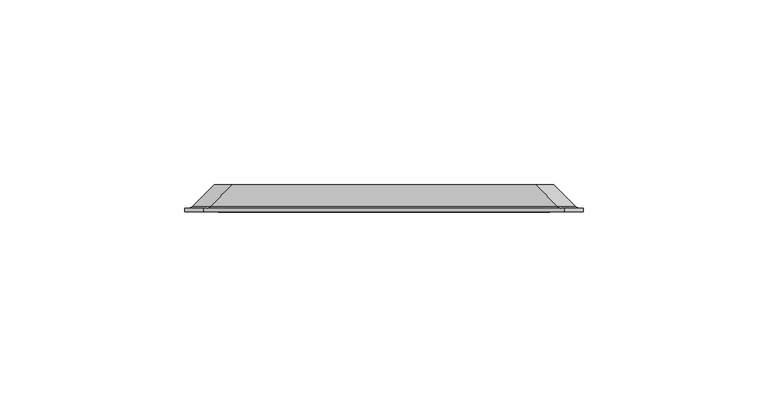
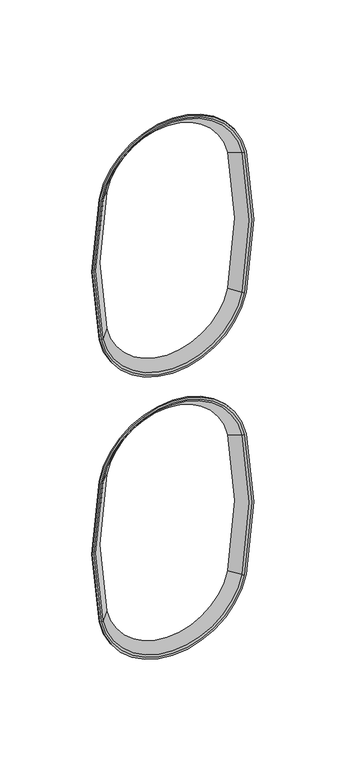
"""IFC4 building model written with IfcOpenShell, lengths in millimetres: proxy geometry, afs-LW-Stud-162 : afs-LW-Stud-162."""

from ifc_helpers import new_model, si_unit, point, frame, origin, place, context, project, spatial, polyline, circle_curve, ellipse_curve, trimmed, source, transform, mapped, element, save
from ifc_brep_helpers import plane_surface, cylinder_surface, revolved_surface, advanced_brep


def generic_models_2680ca9b(model_context):
    return source(origin(), model_context, "Body", "AdvancedBrep", [
        advanced_brep(
        [(-46.3549295, 1.862006, 399.3576594), (-46.3549295, 1.862006, 300.6423406), (-40.4865309, 7.8489239, 301.8277027), (-40.4865309, 7.8489239, 398.1722973), (-47.7224696, 1.2, 399.6338898), (-47.7224696, 1.2, 300.3661102), (-49.0101813, 2.1883516, 399.8939957), (-49.0101813, 2.1883516, 300.1060043), (-49.0101813, 1.2, 300.1060043), (-49.0101813, 1.2, 399.8939957), (-47.0304204, 2.5870863, 399.4941023), (-47.0304204, 2.5870863, 300.5058977), (-47.9739947, 2.1883516, 300.3153044), (-47.9739947, 2.1883516, 399.6846956), (-41.1796395, 8.5560306, 398.3122988), (-41.1796395, 8.5560306, 301.6877012), (46.3549295, 1.862006, 300.6423406), (46.3549295, 1.862006, 399.3576594), (40.4865309, 7.8489239, 398.1722973), (40.4865309, 7.8489239, 301.8277027), (47.7224696, 1.2, 300.3661102), (47.7224696, 1.2, 399.6338898), (49.0101813, 2.1883516, 300.1060043), (49.0101813, 2.1883516, 399.8939957), (49.0101813, 1.2, 399.8939957), (49.0101813, 1.2, 300.1060043), (47.0304204, 2.5870863, 300.5058977), (47.0304204, 2.5870863, 399.4941023), (47.9739947, 2.1883516, 399.6846956), (47.9739947, 2.1883516, 300.3153044), (41.1796395, 8.5560306, 301.6877012), (41.1796395, 8.5560306, 398.3122988)],
        [
            (0, 1, circle_curve(frame((198.0011326, 1.862006, 350.0), z_axis=(0.0, -1.0, 0.0), x_axis=(-0.9802036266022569, 0.0, -0.19799204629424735)), 249.2911222)),
            (1, 2),
            (2, 3, circle_curve(frame((198.0011326, 7.8489239, 350.0), z_axis=(0.0, 1.0, 0.0), x_axis=(-0.9802036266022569, 0.0, -0.19799204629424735)), 243.3042043)),
            (3, 0),
            (4, 5, circle_curve(frame((198.0011326, 1.2, 350.0), z_axis=(0.0, -1.0, 0.0), x_axis=(-0.9802036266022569, 0.0, -0.19799204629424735)), 250.6862814)),
            (5, 1, circle_curve(frame((-47.9490794, 3.4883516, 300.3203371), z_axis=(-0.19799204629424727, 0.0, 0.9802036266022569), x_axis=(0.9802036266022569, 0.0, 0.19799204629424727)), 2.3)),
            (0, 4, circle_curve(frame((-47.9490794, 3.4883516, 399.6796629), z_axis=(-0.19799204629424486, 0.0, -0.9802036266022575), x_axis=(0.9802036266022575, 0.0, -0.19799204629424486)), 2.3)),
            (6, 7, circle_curve(frame((198.0011326, 2.1883516, 350.0), z_axis=(0.0, -1.0, 0.0), x_axis=(-0.9802036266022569, 0.0, -0.19799204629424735)), 252.0)),
            (7, 8),
            (8, 9, circle_curve(frame((198.0011326, 1.2, 350.0), z_axis=(0.0, 1.0, 0.0), x_axis=(-0.9802036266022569, 0.0, -0.19799204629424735)), 252.0)),
            (9, 6),
            (10, 11, circle_curve(frame((198.0011326, 2.5870863, 350.0), z_axis=(0.0, -1.0, 0.0), x_axis=(-0.9802036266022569, 0.0, -0.19799204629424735)), 249.9802554)),
            (11, 12, circle_curve(frame((-47.9739947, 3.5497172, 300.3153044), z_axis=(0.19799204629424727, 0.0, -0.9802036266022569), x_axis=(0.9802036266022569, 0.0, 0.19799204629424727)), 1.3613657)),
            (12, 13, circle_curve(frame((198.0011326, 2.1883516, 350.0), z_axis=(0.0, 1.0, 0.0), x_axis=(-0.9802036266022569, 0.0, -0.19799204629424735)), 250.9428863)),
            (13, 10, circle_curve(frame((-47.9739947, 3.5497172, 399.6846956), z_axis=(0.1979920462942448, 0.0, 0.9802036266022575), x_axis=(0.9802036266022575, 0.0, -0.1979920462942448)), 1.3613657)),
            (14, 15, circle_curve(frame((198.0011326, 8.5560306, 350.0), z_axis=(0.0, -1.0, 0.0), x_axis=(-0.9802036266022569, 0.0, -0.19799204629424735)), 244.0113111)),
            (15, 11),
            (10, 14),
            (2, 15),
            (14, 3),
            (16, 17, circle_curve(frame((-198.0011326, 1.862006, 350.0), z_axis=(0.0, -1.0, 0.0), x_axis=(0.9802036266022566, 0.0, 0.19799204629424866)), 249.2911222)),
            (17, 18),
            (18, 19, circle_curve(frame((-198.0011326, 7.8489239, 350.0), z_axis=(0.0, 1.0, 0.0), x_axis=(0.9802036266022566, 0.0, 0.19799204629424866)), 243.3042043)),
            (19, 16),
            (20, 21, circle_curve(frame((-198.0011326, 1.2, 350.0), z_axis=(0.0, -1.0, 0.0), x_axis=(0.9802036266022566, 0.0, 0.19799204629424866)), 250.6862814)),
            (21, 17, circle_curve(frame((47.9490794, 3.4883516, 399.6796629), z_axis=(0.19799204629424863, 0.0, -0.9802036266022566), x_axis=(-0.9802036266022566, 0.0, -0.19799204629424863)), 2.3)),
            (16, 20, circle_curve(frame((47.9490794, 3.4883516, 300.3203371), z_axis=(0.1979920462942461, 0.0, 0.980203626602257), x_axis=(-0.980203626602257, 0.0, 0.1979920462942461)), 2.3)),
            (22, 23, circle_curve(frame((-198.0011326, 2.1883516, 350.0), z_axis=(0.0, -1.0, 0.0), x_axis=(0.9802036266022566, 0.0, 0.19799204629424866)), 252.0)),
            (23, 24),
            (24, 25, circle_curve(frame((-198.0011326, 1.2, 350.0), z_axis=(0.0, 1.0, 0.0), x_axis=(0.9802036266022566, 0.0, 0.19799204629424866)), 252.0)),
            (25, 22),
            (26, 27, circle_curve(frame((-198.0011326, 2.5870863, 350.0), z_axis=(0.0, -1.0, 0.0), x_axis=(0.9802036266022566, 0.0, 0.19799204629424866)), 249.9802554)),
            (27, 28, circle_curve(frame((47.9739947, 3.5497172, 399.6846956), z_axis=(-0.19799204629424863, 0.0, 0.9802036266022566), x_axis=(-0.9802036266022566, 0.0, -0.19799204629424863)), 1.3613657)),
            (28, 29, circle_curve(frame((-198.0011326, 2.1883516, 350.0), z_axis=(0.0, 1.0, 0.0), x_axis=(0.9802036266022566, 0.0, 0.19799204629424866)), 250.9428863)),
            (29, 26, circle_curve(frame((47.9739947, 3.5497172, 300.3153044), z_axis=(-0.19799204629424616, 0.0, -0.980203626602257), x_axis=(-0.980203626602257, 0.0, 0.19799204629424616)), 1.3613657)),
            (30, 31, circle_curve(frame((-198.0011326, 8.5560306, 350.0), z_axis=(0.0, -1.0, 0.0), x_axis=(0.9802036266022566, 0.0, 0.19799204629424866)), 244.0113111)),
            (31, 27),
            (26, 30),
            (18, 31),
            (30, 19),
            (1, 16, circle_curve(frame((0.0, 1.862006, 310.0056066), z_axis=(0.0, -1.0, 0.0), x_axis=(0.980203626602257, 0.0, -0.19799204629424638)), 47.2911222)),
            (19, 2, circle_curve(frame((0.0, 7.8489239, 310.0056066), z_axis=(0.0, 1.0, 0.0), x_axis=(0.980203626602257, 0.0, -0.19799204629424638)), 41.3042043)),
            (5, 20, circle_curve(frame((0.0, 1.2, 310.0056066), z_axis=(0.0, -1.0, 0.0), x_axis=(0.980203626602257, 0.0, -0.19799204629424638)), 48.6862814)),
            (7, 22, circle_curve(frame((0.0, 2.1883516, 310.0056066), z_axis=(0.0, -1.0, 0.0), x_axis=(0.980203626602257, 0.0, -0.19799204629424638)), 50.0)),
            (25, 8, circle_curve(frame((0.0, 1.2, 310.0056066), z_axis=(0.0, 1.0, 0.0), x_axis=(0.980203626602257, 0.0, -0.19799204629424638)), 50.0)),
            (11, 26, circle_curve(frame((0.0, 2.5870863, 310.0056066), z_axis=(0.0, -1.0, 0.0), x_axis=(0.980203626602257, 0.0, -0.19799204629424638)), 47.9802554)),
            (29, 12, circle_curve(frame((0.0, 2.1883516, 310.0056066), z_axis=(0.0, 1.0, 0.0), x_axis=(0.980203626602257, 0.0, -0.19799204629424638)), 48.9428863)),
            (15, 30, circle_curve(frame((0.0, 8.5560306, 310.0056066), z_axis=(0.0, -1.0, 0.0), x_axis=(0.980203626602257, 0.0, -0.19799204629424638)), 42.0113111)),
            (17, 0, circle_curve(frame((0.0, 1.862006, 389.9943934), z_axis=(0.0, -1.0, 0.0), x_axis=(-0.9802036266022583, 0.0, 0.19799204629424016)), 47.2911222)),
            (3, 18, circle_curve(frame((0.0, 7.8489239, 389.9943934), z_axis=(0.0, 1.0, 0.0), x_axis=(-0.9802036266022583, 0.0, 0.19799204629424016)), 41.3042043)),
            (21, 4, circle_curve(frame((0.0, 1.2, 389.9943934), z_axis=(0.0, -1.0, 0.0), x_axis=(-0.9802036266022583, 0.0, 0.19799204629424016)), 48.6862814)),
            (24, 9, circle_curve(frame((0.0, 1.2, 389.9943934), z_axis=(0.0, -1.0, 0.0), x_axis=(-0.9802036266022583, 0.0, 0.19799204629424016)), 50.0)),
            (23, 6, circle_curve(frame((0.0, 2.1883516, 389.9943934), z_axis=(0.0, -1.0, 0.0), x_axis=(-0.9802036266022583, 0.0, 0.19799204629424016)), 50.0)),
            (28, 13, circle_curve(frame((0.0, 2.1883516, 389.9943934), z_axis=(0.0, -1.0, 0.0), x_axis=(-0.9802036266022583, 0.0, 0.19799204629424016)), 48.9428863)),
            (27, 10, circle_curve(frame((0.0, 2.5870863, 389.9943934), z_axis=(0.0, -1.0, 0.0), x_axis=(-0.9802036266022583, 0.0, 0.19799204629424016)), 47.9802554)),
            (31, 14, circle_curve(frame((0.0, 8.5560306, 389.9943934), z_axis=(0.0, -1.0, 0.0), x_axis=(-0.9802036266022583, 0.0, 0.19799204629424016)), 42.0113111)),
        ],
        [
            revolved_surface(polyline([(-40.4865309, 7.8489239, 301.8277027), (-46.3549295, 1.862006, 300.6423406)]), (198.0011326, 1.2, 350.0), (0.0, 1.0, 0.0)),
            revolved_surface(trimmed(ellipse_curve(frame((-47.9490794, 3.4883516, 300.3203371), z_axis=(0.19799204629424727, 0.0, -0.9802036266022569), x_axis=(0.9802036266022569, 0.0, 0.19799204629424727)), 2.3, 2.3), [point((-46.3549295, 1.862006, 300.6423406))], [point((-47.7224696, 1.2, 300.3661102))], True, "CARTESIAN"), (198.0011326, 1.2, 350.0), (0.0, 1.0, 0.0)),
            cylinder_surface(frame((198.0011326, 1.2, 350.0), z_axis=(0.0, 1.0, 0.0), x_axis=(-0.9802036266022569, 0.0, -0.19799204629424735)), 252.0),
            revolved_surface(trimmed(ellipse_curve(frame((-47.9739947, 3.5497172, 300.3153044), z_axis=(-0.19799204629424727, 0.0, 0.9802036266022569), x_axis=(0.9802036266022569, 0.0, 0.19799204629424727)), 1.3613657, 1.3613657), [point((-47.9739947, 2.1883516, 300.3153044))], [point((-47.0304204, 2.5870863, 300.5058977))], True, "CARTESIAN"), (198.0011326, 1.2, 350.0), (0.0, 1.0, 0.0)),
            revolved_surface(polyline([(-47.0304204, 2.5870863, 300.5058977), (-41.1796395, 8.5560306, 301.6877012)]), (198.0011326, 1.2, 350.0), (0.0, 1.0, 0.0)),
            revolved_surface(polyline([(-41.1796395, 8.5560306, 301.6877012), (-40.4865309, 7.8489239, 301.8277027)]), (198.0011326, 1.2, 350.0), (0.0, 1.0, 0.0)),
            revolved_surface(polyline([(40.4865309, 7.8489239, 398.1722973), (46.3549295, 1.862006, 399.3576594)]), (-198.0011326, 1.2, 350.0), (0.0, 1.0, 0.0)),
            revolved_surface(trimmed(ellipse_curve(frame((47.9490794, 3.4883516, 399.6796629), z_axis=(-0.19799204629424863, 0.0, 0.9802036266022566), x_axis=(-0.9802036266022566, 0.0, -0.19799204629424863)), 2.3, 2.3), [point((46.3549295, 1.862006, 399.3576594))], [point((47.7224696, 1.2, 399.6338898))], True, "CARTESIAN"), (-198.0011326, 1.2, 350.0), (0.0, 1.0, 0.0)),
            cylinder_surface(frame((-198.0011326, 1.2, 350.0), z_axis=(0.0, 1.0, 0.0), x_axis=(0.9802036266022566, 0.0, 0.19799204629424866)), 252.0),
            revolved_surface(trimmed(ellipse_curve(frame((47.9739947, 3.5497172, 399.6846956), z_axis=(0.19799204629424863, 0.0, -0.9802036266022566), x_axis=(-0.9802036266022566, 0.0, -0.19799204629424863)), 1.3613657, 1.3613657), [point((47.9739947, 2.1883516, 399.6846956))], [point((47.0304204, 2.5870863, 399.4941023))], True, "CARTESIAN"), (-198.0011326, 1.2, 350.0), (0.0, 1.0, 0.0)),
            revolved_surface(polyline([(47.0304204, 2.5870863, 399.4941023), (41.1796395, 8.5560306, 398.3122988)]), (-198.0011326, 1.2, 350.0), (0.0, 1.0, 0.0)),
            revolved_surface(polyline([(41.1796395, 8.5560306, 398.3122988), (40.4865309, 7.8489239, 398.1722973)]), (-198.0011326, 1.2, 350.0), (0.0, 1.0, 0.0)),
            revolved_surface(polyline([(40.4865309, 7.8489239, 301.8277027), (46.3549295, 1.862006, 300.6423406)]), (0.0, 1.2, 310.0056066), (0.0, 1.0, 0.0)),
            revolved_surface(trimmed(ellipse_curve(frame((47.9490794, 3.4883516, 300.3203371), z_axis=(0.19799204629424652, 0.0, 0.980203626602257), x_axis=(-0.980203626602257, 0.0, 0.19799204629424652)), 2.3, 2.3), [point((46.3549295, 1.862006, 300.6423406))], [point((47.7224696, 1.2, 300.3661102))], True, "CARTESIAN"), (0.0, 1.2, 310.0056066), (0.0, 1.0, 0.0)),
            cylinder_surface(frame((0.0, 1.2, 310.0056066), z_axis=(0.0, 1.0, 0.0), x_axis=(0.980203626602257, 0.0, -0.19799204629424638)), 50.0),
            revolved_surface(trimmed(ellipse_curve(frame((47.9739947, 3.5497172, 300.3153044), z_axis=(-0.19799204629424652, 0.0, -0.980203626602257), x_axis=(-0.980203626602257, 0.0, 0.19799204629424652)), 1.3613657, 1.3613657), [point((47.9739947, 2.1883516, 300.3153044))], [point((47.0304204, 2.5870863, 300.5058977))], True, "CARTESIAN"), (0.0, 1.2, 310.0056066), (0.0, 1.0, 0.0)),
            revolved_surface(polyline([(47.0304204, 2.5870863, 300.5058977), (41.1796395, 8.5560306, 301.6877012)]), (0.0, 1.2, 310.0056066), (0.0, 1.0, 0.0)),
            revolved_surface(polyline([(41.1796395, 8.5560306, 301.6877012), (40.4865309, 7.8489239, 301.8277027)]), (0.0, 1.2, 310.0056066), (0.0, 1.0, 0.0)),
            revolved_surface(polyline([(-40.4865309, 7.8489239, 398.1722973), (-46.3549295, 1.862006, 399.3576594)]), (0.0, 1.2, 389.9943934), (0.0, 1.0, 0.0)),
            revolved_surface(trimmed(ellipse_curve(frame((-47.9490794, 3.4883516, 399.6796629), z_axis=(-0.19799204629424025, 0.0, -0.9802036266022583), x_axis=(0.9802036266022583, 0.0, -0.19799204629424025)), 2.3, 2.3), [point((-46.3549295, 1.862006, 399.3576594))], [point((-47.7224696, 1.2, 399.6338898))], True, "CARTESIAN"), (0.0, 1.2, 389.9943934), (0.0, 1.0, 0.0)),
            plane_surface(frame((0.0, 1.2, 389.9943934), z_axis=(0.0, -1.0, 0.0), x_axis=(-0.9802036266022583, 0.0, 0.19799204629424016))),
            cylinder_surface(frame((0.0, 1.2, 389.9943934), z_axis=(0.0, 1.0, 0.0), x_axis=(-0.9802036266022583, 0.0, 0.19799204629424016)), 50.0),
            plane_surface(frame((0.0, 2.1883516, 389.9943934), z_axis=(0.0, 1.0, 0.0), x_axis=(-0.9802036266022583, 0.0, 0.19799204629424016))),
            revolved_surface(trimmed(ellipse_curve(frame((-47.9739947, 3.5497172, 399.6846956), z_axis=(0.19799204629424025, 0.0, 0.9802036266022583), x_axis=(0.9802036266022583, 0.0, -0.19799204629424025)), 1.3613657, 1.3613657), [point((-47.9739947, 2.1883516, 399.6846956))], [point((-47.0304204, 2.5870863, 399.4941023))], True, "CARTESIAN"), (0.0, 1.2, 389.9943934), (0.0, 1.0, 0.0)),
            revolved_surface(polyline([(-47.0304204, 2.5870863, 399.4941023), (-41.1796395, 8.5560306, 398.3122988)]), (0.0, 1.2, 389.9943934), (0.0, 1.0, 0.0)),
            revolved_surface(polyline([(-41.1796395, 8.5560306, 398.3122988), (-40.4865309, 7.8489239, 398.1722973)]), (0.0, 1.2, 389.9943934), (0.0, 1.0, 0.0)),
        ],
        [
            (0, [[1, 2, 3, 4]]),
            (1, [[5, 6, -1, 7]]),
            (2, [[8, 9, 10, 11]]),
            (3, [[12, 13, 14, 15]]),
            (4, [[16, 17, -12, 18]]),
            (5, [[-3, 19, -16, 20]]),
            (6, [[21, 22, 23, 24]]),
            (7, [[25, 26, -21, 27]]),
            (8, [[28, 29, 30, 31]]),
            (9, [[32, 33, 34, 35]]),
            (10, [[36, 37, -32, 38]]),
            (11, [[-23, 39, -36, 40]]),
            (12, [[41, -24, 42, -2]]),
            (13, [[43, -27, -41, -6]]),
            (14, [[44, -31, 45, -9]]),
            (15, [[46, -35, 47, -13]]),
            (16, [[48, -38, -46, -17]]),
            (17, [[-42, -40, -48, -19]]),
            (18, [[49, -4, 50, -22]]),
            (19, [[51, -7, -49, -26]]),
            (20, [[52, -10, -45, -30], [-25, -43, -5, -51]]),
            (21, [[53, -11, -52, -29]]),
            (22, [[-28, -44, -8, -53], [54, -14, -47, -34]]),
            (23, [[55, -15, -54, -33]]),
            (24, [[56, -18, -55, -37]]),
            (25, [[-50, -20, -56, -39]]),
        ],
    ),
        advanced_brep(
        [(-46.3549295, 1.862006, 199.3576594), (-46.3549295, 1.862006, 100.6423406), (-40.4865309, 7.8489239, 101.8277027), (-40.4865309, 7.8489239, 198.1722973), (-47.7224696, 1.2, 199.6338898), (-47.7224696, 1.2, 100.3661102), (-49.0101813, 2.1883516, 199.8939957), (-49.0101813, 2.1883516, 100.1060043), (-49.0101813, 1.2, 100.1060043), (-49.0101813, 1.2, 199.8939957), (-47.0304204, 2.5870863, 199.4941023), (-47.0304204, 2.5870863, 100.5058977), (-47.9739947, 2.1883516, 100.3153044), (-47.9739947, 2.1883516, 199.6846956), (-41.1796395, 8.5560306, 198.3122988), (-41.1796395, 8.5560306, 101.6877012), (46.3549295, 1.862006, 100.6423406), (46.3549295, 1.862006, 199.3576594), (40.4865309, 7.8489239, 198.1722973), (40.4865309, 7.8489239, 101.8277027), (47.7224696, 1.2, 100.3661102), (47.7224696, 1.2, 199.6338898), (49.0101813, 2.1883516, 100.1060043), (49.0101813, 2.1883516, 199.8939957), (49.0101813, 1.2, 199.8939957), (49.0101813, 1.2, 100.1060043), (47.0304204, 2.5870863, 100.5058977), (47.0304204, 2.5870863, 199.4941023), (47.9739947, 2.1883516, 199.6846956), (47.9739947, 2.1883516, 100.3153044), (41.1796395, 8.5560306, 101.6877012), (41.1796395, 8.5560306, 198.3122988)],
        [
            (0, 1, circle_curve(frame((198.0011326, 1.862006, 150.0), z_axis=(0.0, -1.0, 0.0), x_axis=(-0.9802036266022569, 0.0, -0.19799204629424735)), 249.2911222)),
            (1, 2),
            (2, 3, circle_curve(frame((198.0011326, 7.8489239, 150.0), z_axis=(0.0, 1.0, 0.0), x_axis=(-0.9802036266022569, 0.0, -0.19799204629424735)), 243.3042043)),
            (3, 0),
            (4, 5, circle_curve(frame((198.0011326, 1.2, 150.0), z_axis=(0.0, -1.0, 0.0), x_axis=(-0.9802036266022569, 0.0, -0.19799204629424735)), 250.6862814)),
            (5, 1, circle_curve(frame((-47.9490794, 3.4883516, 100.3203371), z_axis=(-0.19799204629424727, 0.0, 0.9802036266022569), x_axis=(0.9802036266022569, 0.0, 0.19799204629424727)), 2.3)),
            (0, 4, circle_curve(frame((-47.9490794, 3.4883516, 199.6796629), z_axis=(-0.19799204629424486, 0.0, -0.9802036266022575), x_axis=(0.9802036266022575, 0.0, -0.19799204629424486)), 2.3)),
            (6, 7, circle_curve(frame((198.0011326, 2.1883516, 150.0), z_axis=(0.0, -1.0, 0.0), x_axis=(-0.9802036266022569, 0.0, -0.19799204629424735)), 252.0)),
            (7, 8),
            (8, 9, circle_curve(frame((198.0011326, 1.2, 150.0), z_axis=(0.0, 1.0, 0.0), x_axis=(-0.9802036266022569, 0.0, -0.19799204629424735)), 252.0)),
            (9, 6),
            (10, 11, circle_curve(frame((198.0011326, 2.5870863, 150.0), z_axis=(0.0, -1.0, 0.0), x_axis=(-0.9802036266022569, 0.0, -0.19799204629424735)), 249.9802554)),
            (11, 12, circle_curve(frame((-47.9739947, 3.5497172, 100.3153044), z_axis=(0.19799204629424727, 0.0, -0.9802036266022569), x_axis=(0.9802036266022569, 0.0, 0.19799204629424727)), 1.3613657)),
            (12, 13, circle_curve(frame((198.0011326, 2.1883516, 150.0), z_axis=(0.0, 1.0, 0.0), x_axis=(-0.9802036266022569, 0.0, -0.19799204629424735)), 250.9428863)),
            (13, 10, circle_curve(frame((-47.9739947, 3.5497172, 199.6846956), z_axis=(0.1979920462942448, 0.0, 0.9802036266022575), x_axis=(0.9802036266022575, 0.0, -0.1979920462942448)), 1.3613657)),
            (14, 15, circle_curve(frame((198.0011326, 8.5560306, 150.0), z_axis=(0.0, -1.0, 0.0), x_axis=(-0.9802036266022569, 0.0, -0.19799204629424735)), 244.0113111)),
            (15, 11),
            (10, 14),
            (2, 15),
            (14, 3),
            (16, 17, circle_curve(frame((-198.0011326, 1.862006, 150.0), z_axis=(0.0, -1.0, 0.0), x_axis=(0.9802036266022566, 0.0, 0.19799204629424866)), 249.2911222)),
            (17, 18),
            (18, 19, circle_curve(frame((-198.0011326, 7.8489239, 150.0), z_axis=(0.0, 1.0, 0.0), x_axis=(0.9802036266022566, 0.0, 0.19799204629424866)), 243.3042043)),
            (19, 16),
            (20, 21, circle_curve(frame((-198.0011326, 1.2, 150.0), z_axis=(0.0, -1.0, 0.0), x_axis=(0.9802036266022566, 0.0, 0.19799204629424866)), 250.6862814)),
            (21, 17, circle_curve(frame((47.9490794, 3.4883516, 199.6796629), z_axis=(0.19799204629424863, 0.0, -0.9802036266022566), x_axis=(-0.9802036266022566, 0.0, -0.19799204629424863)), 2.3)),
            (16, 20, circle_curve(frame((47.9490794, 3.4883516, 100.3203371), z_axis=(0.1979920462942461, 0.0, 0.980203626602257), x_axis=(-0.980203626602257, 0.0, 0.1979920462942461)), 2.3)),
            (22, 23, circle_curve(frame((-198.0011326, 2.1883516, 150.0), z_axis=(0.0, -1.0, 0.0), x_axis=(0.9802036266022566, 0.0, 0.19799204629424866)), 252.0)),
            (23, 24),
            (24, 25, circle_curve(frame((-198.0011326, 1.2, 150.0), z_axis=(0.0, 1.0, 0.0), x_axis=(0.9802036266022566, 0.0, 0.19799204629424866)), 252.0)),
            (25, 22),
            (26, 27, circle_curve(frame((-198.0011326, 2.5870863, 150.0), z_axis=(0.0, -1.0, 0.0), x_axis=(0.9802036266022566, 0.0, 0.19799204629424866)), 249.9802554)),
            (27, 28, circle_curve(frame((47.9739947, 3.5497172, 199.6846956), z_axis=(-0.19799204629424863, 0.0, 0.9802036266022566), x_axis=(-0.9802036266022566, 0.0, -0.19799204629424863)), 1.3613657)),
            (28, 29, circle_curve(frame((-198.0011326, 2.1883516, 150.0), z_axis=(0.0, 1.0, 0.0), x_axis=(0.9802036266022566, 0.0, 0.19799204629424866)), 250.9428863)),
            (29, 26, circle_curve(frame((47.9739947, 3.5497172, 100.3153044), z_axis=(-0.19799204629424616, 0.0, -0.980203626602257), x_axis=(-0.980203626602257, 0.0, 0.19799204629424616)), 1.3613657)),
            (30, 31, circle_curve(frame((-198.0011326, 8.5560306, 150.0), z_axis=(0.0, -1.0, 0.0), x_axis=(0.9802036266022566, 0.0, 0.19799204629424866)), 244.0113111)),
            (31, 27),
            (26, 30),
            (18, 31),
            (30, 19),
            (1, 16, circle_curve(frame((0.0, 1.862006, 110.0056066), z_axis=(0.0, -1.0, 0.0), x_axis=(0.980203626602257, 0.0, -0.19799204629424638)), 47.2911222)),
            (19, 2, circle_curve(frame((0.0, 7.8489239, 110.0056066), z_axis=(0.0, 1.0, 0.0), x_axis=(0.980203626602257, 0.0, -0.19799204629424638)), 41.3042043)),
            (5, 20, circle_curve(frame((0.0, 1.2, 110.0056066), z_axis=(0.0, -1.0, 0.0), x_axis=(0.980203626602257, 0.0, -0.19799204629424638)), 48.6862814)),
            (7, 22, circle_curve(frame((0.0, 2.1883516, 110.0056066), z_axis=(0.0, -1.0, 0.0), x_axis=(0.980203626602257, 0.0, -0.19799204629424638)), 50.0)),
            (25, 8, circle_curve(frame((0.0, 1.2, 110.0056066), z_axis=(0.0, 1.0, 0.0), x_axis=(0.980203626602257, 0.0, -0.19799204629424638)), 50.0)),
            (11, 26, circle_curve(frame((0.0, 2.5870863, 110.0056066), z_axis=(0.0, -1.0, 0.0), x_axis=(0.980203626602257, 0.0, -0.19799204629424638)), 47.9802554)),
            (29, 12, circle_curve(frame((0.0, 2.1883516, 110.0056066), z_axis=(0.0, 1.0, 0.0), x_axis=(0.980203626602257, 0.0, -0.19799204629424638)), 48.9428863)),
            (15, 30, circle_curve(frame((0.0, 8.5560306, 110.0056066), z_axis=(0.0, -1.0, 0.0), x_axis=(0.980203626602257, 0.0, -0.19799204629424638)), 42.0113111)),
            (17, 0, circle_curve(frame((0.0, 1.862006, 189.9943934), z_axis=(0.0, -1.0, 0.0), x_axis=(-0.9802036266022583, 0.0, 0.19799204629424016)), 47.2911222)),
            (3, 18, circle_curve(frame((0.0, 7.8489239, 189.9943934), z_axis=(0.0, 1.0, 0.0), x_axis=(-0.9802036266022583, 0.0, 0.19799204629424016)), 41.3042043)),
            (21, 4, circle_curve(frame((0.0, 1.2, 189.9943934), z_axis=(0.0, -1.0, 0.0), x_axis=(-0.9802036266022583, 0.0, 0.19799204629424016)), 48.6862814)),
            (24, 9, circle_curve(frame((0.0, 1.2, 189.9943934), z_axis=(0.0, -1.0, 0.0), x_axis=(-0.9802036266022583, 0.0, 0.19799204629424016)), 50.0)),
            (23, 6, circle_curve(frame((0.0, 2.1883516, 189.9943934), z_axis=(0.0, -1.0, 0.0), x_axis=(-0.9802036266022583, 0.0, 0.19799204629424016)), 50.0)),
            (28, 13, circle_curve(frame((0.0, 2.1883516, 189.9943934), z_axis=(0.0, -1.0, 0.0), x_axis=(-0.9802036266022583, 0.0, 0.19799204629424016)), 48.9428863)),
            (27, 10, circle_curve(frame((0.0, 2.5870863, 189.9943934), z_axis=(0.0, -1.0, 0.0), x_axis=(-0.9802036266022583, 0.0, 0.19799204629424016)), 47.9802554)),
            (31, 14, circle_curve(frame((0.0, 8.5560306, 189.9943934), z_axis=(0.0, -1.0, 0.0), x_axis=(-0.9802036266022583, 0.0, 0.19799204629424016)), 42.0113111)),
        ],
        [
            revolved_surface(polyline([(-40.4865309, 7.8489239, 101.8277027), (-46.3549295, 1.862006, 100.6423406)]), (198.0011326, 1.2, 150.0), (0.0, 1.0, 0.0)),
            revolved_surface(trimmed(ellipse_curve(frame((-47.9490794, 3.4883516, 100.3203371), z_axis=(0.19799204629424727, 0.0, -0.9802036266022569), x_axis=(0.9802036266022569, 0.0, 0.19799204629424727)), 2.3, 2.3), [point((-46.3549295, 1.862006, 100.6423406))], [point((-47.7224696, 1.2, 100.3661102))], True, "CARTESIAN"), (198.0011326, 1.2, 150.0), (0.0, 1.0, 0.0)),
            cylinder_surface(frame((198.0011326, 1.2, 150.0), z_axis=(0.0, 1.0, 0.0), x_axis=(-0.9802036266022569, 0.0, -0.19799204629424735)), 252.0),
            revolved_surface(trimmed(ellipse_curve(frame((-47.9739947, 3.5497172, 100.3153044), z_axis=(-0.19799204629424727, 0.0, 0.9802036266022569), x_axis=(0.9802036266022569, 0.0, 0.19799204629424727)), 1.3613657, 1.3613657), [point((-47.9739947, 2.1883516, 100.3153044))], [point((-47.0304204, 2.5870863, 100.5058977))], True, "CARTESIAN"), (198.0011326, 1.2, 150.0), (0.0, 1.0, 0.0)),
            revolved_surface(polyline([(-47.0304204, 2.5870863, 100.5058977), (-41.1796395, 8.5560306, 101.6877012)]), (198.0011326, 1.2, 150.0), (0.0, 1.0, 0.0)),
            revolved_surface(polyline([(-41.1796395, 8.5560306, 101.6877012), (-40.4865309, 7.8489239, 101.8277027)]), (198.0011326, 1.2, 150.0), (0.0, 1.0, 0.0)),
            revolved_surface(polyline([(40.4865309, 7.8489239, 198.1722973), (46.3549295, 1.862006, 199.3576594)]), (-198.0011326, 1.2, 150.0), (0.0, 1.0, 0.0)),
            revolved_surface(trimmed(ellipse_curve(frame((47.9490794, 3.4883516, 199.6796629), z_axis=(-0.19799204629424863, 0.0, 0.9802036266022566), x_axis=(-0.9802036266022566, 0.0, -0.19799204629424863)), 2.3, 2.3), [point((46.3549295, 1.862006, 199.3576594))], [point((47.7224696, 1.2, 199.6338898))], True, "CARTESIAN"), (-198.0011326, 1.2, 150.0), (0.0, 1.0, 0.0)),
            cylinder_surface(frame((-198.0011326, 1.2, 150.0), z_axis=(0.0, 1.0, 0.0), x_axis=(0.9802036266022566, 0.0, 0.19799204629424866)), 252.0),
            revolved_surface(trimmed(ellipse_curve(frame((47.9739947, 3.5497172, 199.6846956), z_axis=(0.19799204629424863, 0.0, -0.9802036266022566), x_axis=(-0.9802036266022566, 0.0, -0.19799204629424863)), 1.3613657, 1.3613657), [point((47.9739947, 2.1883516, 199.6846956))], [point((47.0304204, 2.5870863, 199.4941023))], True, "CARTESIAN"), (-198.0011326, 1.2, 150.0), (0.0, 1.0, 0.0)),
            revolved_surface(polyline([(47.0304204, 2.5870863, 199.4941023), (41.1796395, 8.5560306, 198.3122988)]), (-198.0011326, 1.2, 150.0), (0.0, 1.0, 0.0)),
            revolved_surface(polyline([(41.1796395, 8.5560306, 198.3122988), (40.4865309, 7.8489239, 198.1722973)]), (-198.0011326, 1.2, 150.0), (0.0, 1.0, 0.0)),
            revolved_surface(polyline([(40.4865309, 7.8489239, 101.8277027), (46.3549295, 1.862006, 100.6423406)]), (0.0, 1.2, 110.0056066), (0.0, 1.0, 0.0)),
            revolved_surface(trimmed(ellipse_curve(frame((47.9490794, 3.4883516, 100.3203371), z_axis=(0.19799204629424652, 0.0, 0.980203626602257), x_axis=(-0.980203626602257, 0.0, 0.19799204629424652)), 2.3, 2.3), [point((46.3549295, 1.862006, 100.6423406))], [point((47.7224696, 1.2, 100.3661102))], True, "CARTESIAN"), (0.0, 1.2, 110.0056066), (0.0, 1.0, 0.0)),
            cylinder_surface(frame((0.0, 1.2, 110.0056066), z_axis=(0.0, 1.0, 0.0), x_axis=(0.980203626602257, 0.0, -0.19799204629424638)), 50.0),
            revolved_surface(trimmed(ellipse_curve(frame((47.9739947, 3.5497172, 100.3153044), z_axis=(-0.19799204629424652, 0.0, -0.980203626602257), x_axis=(-0.980203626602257, 0.0, 0.19799204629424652)), 1.3613657, 1.3613657), [point((47.9739947, 2.1883516, 100.3153044))], [point((47.0304204, 2.5870863, 100.5058977))], True, "CARTESIAN"), (0.0, 1.2, 110.0056066), (0.0, 1.0, 0.0)),
            revolved_surface(polyline([(47.0304204, 2.5870863, 100.5058977), (41.1796395, 8.5560306, 101.6877012)]), (0.0, 1.2, 110.0056066), (0.0, 1.0, 0.0)),
            revolved_surface(polyline([(41.1796395, 8.5560306, 101.6877012), (40.4865309, 7.8489239, 101.8277027)]), (0.0, 1.2, 110.0056066), (0.0, 1.0, 0.0)),
            revolved_surface(polyline([(-40.4865309, 7.8489239, 198.1722973), (-46.3549295, 1.862006, 199.3576594)]), (0.0, 1.2, 189.9943934), (0.0, 1.0, 0.0)),
            revolved_surface(trimmed(ellipse_curve(frame((-47.9490794, 3.4883516, 199.6796629), z_axis=(-0.19799204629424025, 0.0, -0.9802036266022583), x_axis=(0.9802036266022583, 0.0, -0.19799204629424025)), 2.3, 2.3), [point((-46.3549295, 1.862006, 199.3576594))], [point((-47.7224696, 1.2, 199.6338898))], True, "CARTESIAN"), (0.0, 1.2, 189.9943934), (0.0, 1.0, 0.0)),
            plane_surface(frame((0.0, 1.2, 189.9943934), z_axis=(0.0, -1.0, 0.0), x_axis=(-0.9802036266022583, 0.0, 0.19799204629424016))),
            cylinder_surface(frame((0.0, 1.2, 189.9943934), z_axis=(0.0, 1.0, 0.0), x_axis=(-0.9802036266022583, 0.0, 0.19799204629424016)), 50.0),
            plane_surface(frame((0.0, 2.1883516, 189.9943934), z_axis=(0.0, 1.0, 0.0), x_axis=(-0.9802036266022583, 0.0, 0.19799204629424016))),
            revolved_surface(trimmed(ellipse_curve(frame((-47.9739947, 3.5497172, 199.6846956), z_axis=(0.19799204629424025, 0.0, 0.9802036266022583), x_axis=(0.9802036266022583, 0.0, -0.19799204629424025)), 1.3613657, 1.3613657), [point((-47.9739947, 2.1883516, 199.6846956))], [point((-47.0304204, 2.5870863, 199.4941023))], True, "CARTESIAN"), (0.0, 1.2, 189.9943934), (0.0, 1.0, 0.0)),
            revolved_surface(polyline([(-47.0304204, 2.5870863, 199.4941023), (-41.1796395, 8.5560306, 198.3122988)]), (0.0, 1.2, 189.9943934), (0.0, 1.0, 0.0)),
            revolved_surface(polyline([(-41.1796395, 8.5560306, 198.3122988), (-40.4865309, 7.8489239, 198.1722973)]), (0.0, 1.2, 189.9943934), (0.0, 1.0, 0.0)),
        ],
        [
            (0, [[1, 2, 3, 4]]),
            (1, [[5, 6, -1, 7]]),
            (2, [[8, 9, 10, 11]]),
            (3, [[12, 13, 14, 15]]),
            (4, [[16, 17, -12, 18]]),
            (5, [[-3, 19, -16, 20]]),
            (6, [[21, 22, 23, 24]]),
            (7, [[25, 26, -21, 27]]),
            (8, [[28, 29, 30, 31]]),
            (9, [[32, 33, 34, 35]]),
            (10, [[36, 37, -32, 38]]),
            (11, [[-23, 39, -36, 40]]),
            (12, [[41, -24, 42, -2]]),
            (13, [[43, -27, -41, -6]]),
            (14, [[44, -31, 45, -9]]),
            (15, [[46, -35, 47, -13]]),
            (16, [[48, -38, -46, -17]]),
            (17, [[-42, -40, -48, -19]]),
            (18, [[49, -4, 50, -22]]),
            (19, [[51, -7, -49, -26]]),
            (20, [[52, -10, -45, -30], [-25, -43, -5, -51]]),
            (21, [[53, -11, -52, -29]]),
            (22, [[-28, -44, -8, -53], [54, -14, -47, -34]]),
            (23, [[55, -15, -54, -33]]),
            (24, [[56, -18, -55, -37]]),
            (25, [[-50, -20, -56, -39]]),
        ],
    ),
    ])


if __name__ == "__main__":
    model = new_model("IFC4")
    model_context = context("Model", 3, world=origin())
    ifc_project = project(units=[si_unit("LENGTHUNIT", "METRE", prefix="MILLI")], contexts=[model_context])
    site = spatial("IfcSite", under=ifc_project)
    building = spatial("IfcBuilding", under=site)
    placement = place(None, origin())
    generic_models_shape = generic_models_2680ca9b(model_context)
    element("IfcBuildingElementProxy", 1, Name="afs-LW-Stud-162 : afs-LW-Stud-162", ObjectType="afs-LW-Stud-162 : afs-LW-Stud-162", at=placement, inside=building, context=model_context, shape_type="MappedRepresentation", body=[
        mapped(generic_models_shape, transform((0.0, 0.0, 0.0), x_axis=(1.0, 0.0, 0.0), y_axis=(0.0, 1.0, 0.0), z_axis=(0.0, 0.0, 1.0))),
    ])
    save(model, "model.ifc")
